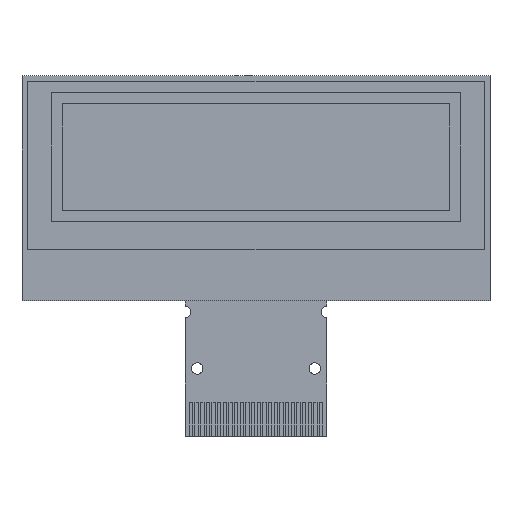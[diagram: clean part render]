
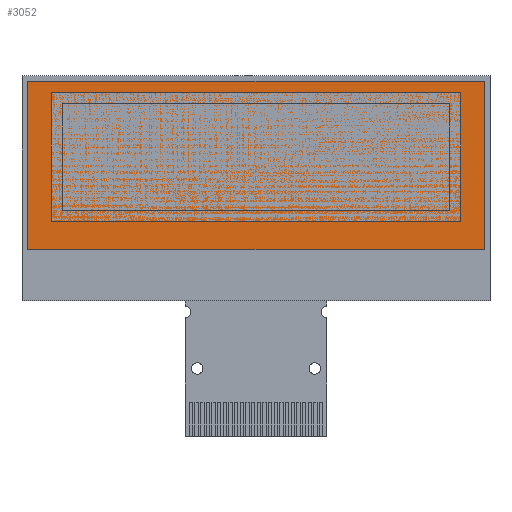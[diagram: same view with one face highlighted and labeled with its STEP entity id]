
A CAD part, top view. The second image highlights one B-rep face of the part: STEP entity #3052.
In plain terms, the highlighted planar face has unit normal (0, 0, 1).
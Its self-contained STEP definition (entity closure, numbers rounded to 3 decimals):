
#197 = LINE ( 'NONE', #2299, #4554 ) ;
#288 = VERTEX_POINT ( 'NONE', #1728 ) ;
#475 = EDGE_LOOP ( 'NONE', ( #1790, #1422, #3997, #3362 ) ) ;
#542 = VERTEX_POINT ( 'NONE', #1261 ) ;
#613 = DIRECTION ( 'NONE',  ( 0., -1., 0. ) ) ;
#637 = LINE ( 'NONE', #2043, #3730 ) ;
#1261 = CARTESIAN_POINT ( 'NONE',  ( 20.2, -5.45, 0.9 ) ) ;
#1422 = ORIENTED_EDGE ( 'NONE', *, *, #1655, .T. ) ;
#1655 = EDGE_CURVE ( 'NONE', #3314, #542, #3170, .T. ) ;
#1691 = DIRECTION ( 'NONE',  ( 1., 0., 0. ) ) ;
#1695 = VECTOR ( 'NONE', #2390, 1000. ) ;
#1728 = CARTESIAN_POINT ( 'NONE',  ( 20.2, 9.45, 0.9 ) ) ;
#1790 = ORIENTED_EDGE ( 'NONE', *, *, #2946, .T. ) ;
#1841 = DIRECTION ( 'NONE',  ( 0., 0., 1. ) ) ;
#2001 = VECTOR ( 'NONE', #1691, 1000. ) ;
#2043 = CARTESIAN_POINT ( 'NONE',  ( -20.2, 9.45, 0.9 ) ) ;
#2299 = CARTESIAN_POINT ( 'NONE',  ( -20.2, 9.45, 0.9 ) ) ;
#2300 = EDGE_CURVE ( 'NONE', #288, #4024, #197, .T. ) ;
#2390 = DIRECTION ( 'NONE',  ( 0., 1., 0. ) ) ;
#2457 = EDGE_CURVE ( 'NONE', #542, #288, #3502, .T. ) ;
#2511 = PLANE ( 'NONE',  #3294 ) ;
#2836 = FACE_OUTER_BOUND ( 'NONE', #475, .T. ) ;
#2942 = CARTESIAN_POINT ( 'NONE',  ( -20.2, 9.45, 0.9 ) ) ;
#2946 = EDGE_CURVE ( 'NONE', #4024, #3314, #637, .T. ) ;
#3052 = ADVANCED_FACE ( 'NONE', ( #2836 ), #2511, .T. ) ;
#3100 = CARTESIAN_POINT ( 'NONE',  ( -20.2, -5.45, 0.9 ) ) ;
#3170 = LINE ( 'NONE', #3100, #2001 ) ;
#3294 = AXIS2_PLACEMENT_3D ( 'NONE', #3600, #1841, #4237 ) ;
#3314 = VERTEX_POINT ( 'NONE', #3426 ) ;
#3362 = ORIENTED_EDGE ( 'NONE', *, *, #2300, .T. ) ;
#3426 = CARTESIAN_POINT ( 'NONE',  ( -20.2, -5.45, 0.9 ) ) ;
#3502 = LINE ( 'NONE', #4188, #1695 ) ;
#3600 = CARTESIAN_POINT ( 'NONE',  ( 0., 0., 0.9 ) ) ;
#3711 = DIRECTION ( 'NONE',  ( -1., 0., 0. ) ) ;
#3730 = VECTOR ( 'NONE', #613, 1000. ) ;
#3997 = ORIENTED_EDGE ( 'NONE', *, *, #2457, .T. ) ;
#4024 = VERTEX_POINT ( 'NONE', #2942 ) ;
#4188 = CARTESIAN_POINT ( 'NONE',  ( 20.2, 9.45, 0.9 ) ) ;
#4237 = DIRECTION ( 'NONE',  ( 1., 0., 0. ) ) ;
#4554 = VECTOR ( 'NONE', #3711, 1000. ) ;
